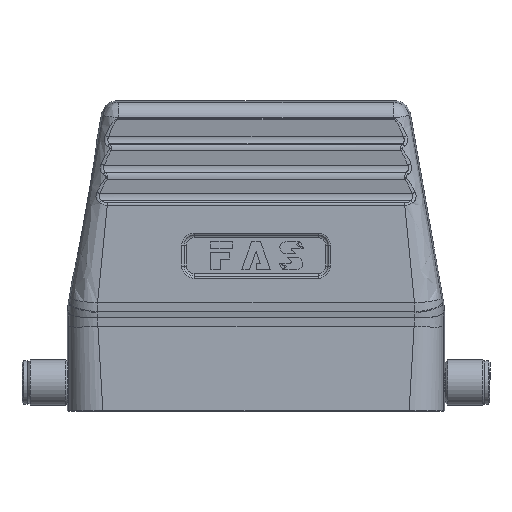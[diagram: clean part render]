
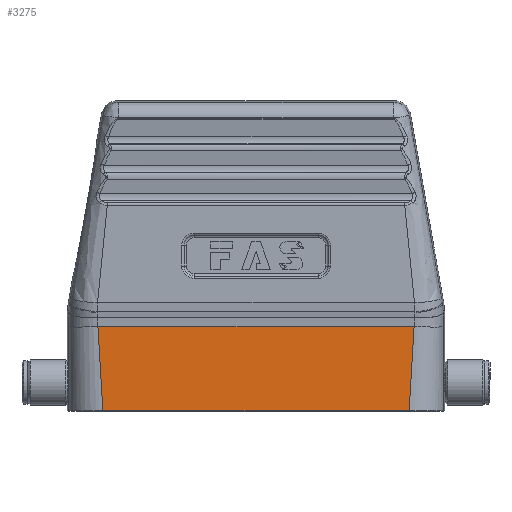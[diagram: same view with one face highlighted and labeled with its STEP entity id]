
A CAD part, top view. The second image highlights one B-rep face of the part: STEP entity #3275.
In plain terms, the highlighted planar face has unit normal (0, 0, 1).
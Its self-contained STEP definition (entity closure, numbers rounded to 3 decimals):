
#73 = LINE ( 'NONE', #918, #7540 ) ;
#918 = CARTESIAN_POINT ( 'NONE',  ( -83.5, 43.889, 21.5 ) ) ;
#1213 = CARTESIAN_POINT ( 'NONE',  ( -30.17, 35.754, 21.5 ) ) ;
#1294 = CARTESIAN_POINT ( 'NONE',  ( -30.081, 34.344, 21.5 ) ) ;
#1443 = CARTESIAN_POINT ( 'NONE',  ( -30.412, 39.956, 21.5 ) ) ;
#1960 = CARTESIAN_POINT ( 'NONE',  ( 29.762, 29.488, 21.5 ) ) ;
#1987 = AXIS2_PLACEMENT_3D ( 'NONE', #14403, #21553, #10828 ) ;
#2970 = CARTESIAN_POINT ( 'NONE',  ( -29.81, 30.146, 21.5 ) ) ;
#3033 = CARTESIAN_POINT ( 'NONE',  ( -30.373, 39.218, 21.5 ) ) ;
#3113 = ORIENTED_EDGE ( 'NONE', *, *, #14980, .T. ) ;
#3195 = CARTESIAN_POINT ( 'NONE',  ( -30.248, 37.038, 21.5 ) ) ;
#3275 = ADVANCED_FACE ( 'NONE', ( #16899 ), #16333, .T. ) ;
#3279 = CARTESIAN_POINT ( 'NONE',  ( -30.174, 35.825, 21.5 ) ) ;
#3636 = CARTESIAN_POINT ( 'NONE',  ( 30.595, 43.889, 21.5 ) ) ;
#4621 = DIRECTION ( 'NONE',  ( -1., 0., 0. ) ) ;
#4775 = CARTESIAN_POINT ( 'NONE',  ( 29.639, 27.6, 21.5 ) ) ;
#4824 = CARTESIAN_POINT ( 'NONE',  ( -29.639, 27.6, 21.5 ) ) ;
#4986 = CARTESIAN_POINT ( 'NONE',  ( -30.179, 35.908, 21.5 ) ) ;
#5056 = CARTESIAN_POINT ( 'NONE',  ( -30.434, 40.382, 21.5 ) ) ;
#5127 = CARTESIAN_POINT ( 'NONE',  ( -29.933, 32.037, 21.5 ) ) ;
#5152 = VECTOR ( 'NONE', #10302, 1000. ) ;
#6892 = LINE ( 'NONE', #21260, #5152 ) ;
#6911 = CARTESIAN_POINT ( 'NONE',  ( -30.169, 35.746, 21.5 ) ) ;
#6992 = CARTESIAN_POINT ( 'NONE',  ( -30.519, 42.131, 21.5 ) ) ;
#7540 = VECTOR ( 'NONE', #4621, 1000. ) ;
#8583 = CARTESIAN_POINT ( 'NONE',  ( -30.419, 40.097, 21.5 ) ) ;
#8660 = CARTESIAN_POINT ( 'NONE',  ( -29.913, 31.723, 21.5 ) ) ;
#8805 = CARTESIAN_POINT ( 'NONE',  ( -30., 33.082, 21.5 ) ) ;
#8876 = CARTESIAN_POINT ( 'NONE',  ( -29.639, 27.6, 21.5 ) ) ;
#9686 = VERTEX_POINT ( 'NONE', #4775 ) ;
#9865 = CARTESIAN_POINT ( 'NONE',  ( 30.595, 43.889, 21.5 ) ) ;
#10302 = DIRECTION ( 'NONE',  ( 1., 0., 0. ) ) ;
#10360 = CARTESIAN_POINT ( 'NONE',  ( -30.407, 39.855, 21.5 ) ) ;
#10439 = CARTESIAN_POINT ( 'NONE',  ( -30.409, 39.895, 21.5 ) ) ;
#10508 = CARTESIAN_POINT ( 'NONE',  ( -30.19, 36.073, 21.5 ) ) ;
#10663 = CARTESIAN_POINT ( 'NONE',  ( -30.137, 35.234, 21.5 ) ) ;
#10828 = DIRECTION ( 'NONE',  ( 1., 0., 0. ) ) ;
#10908 = VERTEX_POINT ( 'NONE', #8876 ) ;
#11412 = ORIENTED_EDGE ( 'NONE', *, *, #17255, .T. ) ;
#11983 = EDGE_LOOP ( 'NONE', ( #20437, #11412, #16250, #3113 ) ) ;
#12411 = CARTESIAN_POINT ( 'NONE',  ( -30.595, 43.889, 21.5 ) ) ;
#14026 = CARTESIAN_POINT ( 'NONE',  ( -29.915, 31.763, 21.5 ) ) ;
#14104 = CARTESIAN_POINT ( 'NONE',  ( -29.921, 31.855, 21.5 ) ) ;
#14236 = CARTESIAN_POINT ( 'NONE',  ( -30.21, 36.399, 21.5 ) ) ;
#14399 = CARTESIAN_POINT ( 'NONE',  ( -30.595, 43.889, 21.5 ) ) ;
#14403 = CARTESIAN_POINT ( 'NONE',  ( -83.5, 27.6, 21.5 ) ) ;
#14548 = VERTEX_POINT ( 'NONE', #9865 ) ;
#14980 = EDGE_CURVE ( 'NONE', #14548, #17855, #73, .T. ) ;
#15787 = CARTESIAN_POINT ( 'NONE',  ( -29.72, 28.789, 21.5 ) ) ;
#15940 = CARTESIAN_POINT ( 'NONE',  ( -30.463, 40.957, 21.5 ) ) ;
#16013 = CARTESIAN_POINT ( 'NONE',  ( -30.406, 39.833, 21.5 ) ) ;
#16094 = CARTESIAN_POINT ( 'NONE',  ( -29.956, 32.395, 21.5 ) ) ;
#16250 = ORIENTED_EDGE ( 'NONE', *, *, #20812, .F. ) ;
#16307 = B_SPLINE_CURVE_WITH_KNOTS ( 'NONE', 3,
 ( #3636, #18610, #20301, #1960, #22318 ),
 .UNSPECIFIED., .F., .F.,
 ( 4, 1, 4 ),
 ( 0., 0.652, 1. ),
 .UNSPECIFIED. ) ;
#16333 = PLANE ( 'NONE',  #1987 ) ;
#16489 = EDGE_CURVE ( 'NONE', #17855, #10908, #21725, .T. ) ;
#16899 = FACE_OUTER_BOUND ( 'NONE', #11983, .T. ) ;
#17255 = EDGE_CURVE ( 'NONE', #10908, #9686, #6892, .T. ) ;
#17785 = CARTESIAN_POINT ( 'NONE',  ( -30.172, 35.783, 21.5 ) ) ;
#17855 = VERTEX_POINT ( 'NONE', #14399 ) ;
#17933 = CARTESIAN_POINT ( 'NONE',  ( -29.911, 31.697, 21.5 ) ) ;
#18610 = CARTESIAN_POINT ( 'NONE',  ( 30.456, 40.344, 21.5 ) ) ;
#19627 = CARTESIAN_POINT ( 'NONE',  ( -30.565, 43.176, 21.5 ) ) ;
#20301 = CARTESIAN_POINT ( 'NONE',  ( 30.127, 34.914, 21.5 ) ) ;
#20437 = ORIENTED_EDGE ( 'NONE', *, *, #16489, .T. ) ;
#20812 = EDGE_CURVE ( 'NONE', #14548, #9686, #16307, .T. ) ;
#21260 = CARTESIAN_POINT ( 'NONE',  ( -23.5, 27.6, 21.5 ) ) ;
#21553 = DIRECTION ( 'NONE',  ( 0., 0., 1. ) ) ;
#21625 = CARTESIAN_POINT ( 'NONE',  ( -29.91, 31.682, 21.5 ) ) ;
#21725 = B_SPLINE_CURVE_WITH_KNOTS ( 'NONE', 3,
 ( #12411, #19627, #6992, #15940, #5056, #8583, #1443, #10439, #10360, #16013, #3033, #23248, #3195, #14236, #10508, #4986, #3279, #17785, #23172, #1213, #6911, #10663, #1294, #8805, #16094, #5127, #14104, #14026, #8660, #17933, #21625, #2970, #15787, #4824 ),
 .UNSPECIFIED., .F., .F.,
 ( 4, 1, 1, 1, 1, 1, 2, 2, 1, 1, 1, 1, 1, 1, 1, 2, 2, 1, 1, 1, 1, 1, 1, 2, 2, 4 ),
 ( 0., 0.125, 0.187, 0.219, 0.234, 0.242, 0.246, 0.25, 0.375, 0.437, 0.469, 0.484, 0.492, 0.496, 0.498, 0.499, 0.5, 0.625, 0.687, 0.719, 0.734, 0.742, 0.746, 0.748, 0.75, 1. ),
 .UNSPECIFIED. ) ;
#22318 = CARTESIAN_POINT ( 'NONE',  ( 29.639, 27.6, 21.5 ) ) ;
#23172 = CARTESIAN_POINT ( 'NONE',  ( -30.171, 35.766, 21.5 ) ) ;
#23248 = CARTESIAN_POINT ( 'NONE',  ( -30.321, 38.262, 21.5 ) ) ;
